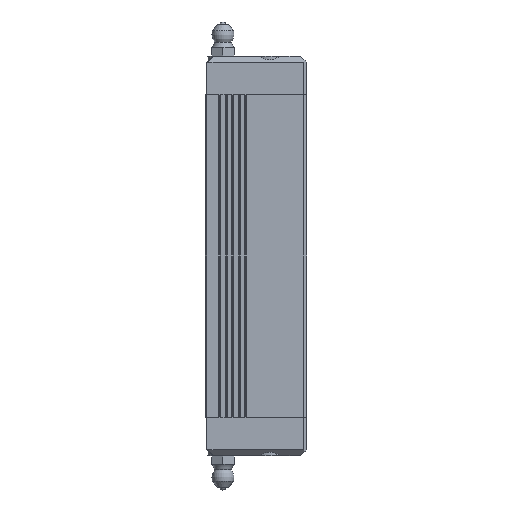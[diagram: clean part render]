
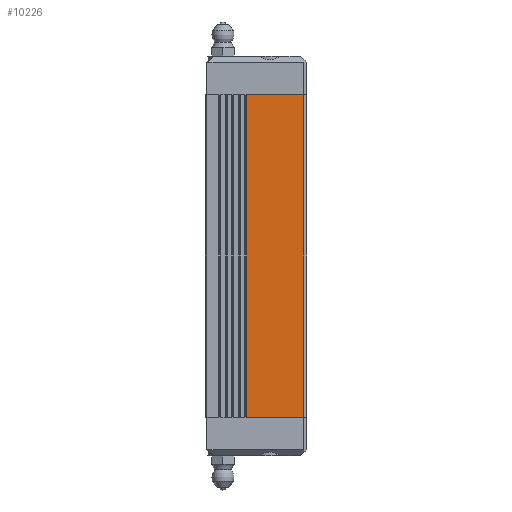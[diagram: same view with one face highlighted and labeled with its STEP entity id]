
A CAD part, left-side view. The second image highlights one B-rep face of the part: STEP entity #10226.
In plain terms, the highlighted planar face has unit normal (-1, 0, 0).
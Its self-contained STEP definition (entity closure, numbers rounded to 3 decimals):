
#169 = PLANE ( 'NONE',  #11054 ) ;
#1442 = DIRECTION ( 'NONE',  ( 0., 0., -1. ) ) ;
#1908 = VECTOR ( 'NONE', #11660, 1000. ) ;
#1925 = LINE ( 'NONE', #5291, #1908 ) ;
#2857 = CARTESIAN_POINT ( 'NONE',  ( -25., 1., 50. ) ) ;
#4682 = FACE_OUTER_BOUND ( 'NONE', #15534, .T. ) ;
#5291 = CARTESIAN_POINT ( 'NONE',  ( -25., 18.7, 50. ) ) ;
#5363 = CARTESIAN_POINT ( 'NONE',  ( -25., 18.7, -50. ) ) ;
#5665 = EDGE_CURVE ( 'NONE', #14354, #13592, #1925, .T. ) ;
#6487 = CARTESIAN_POINT ( 'NONE',  ( -25., 1., -50. ) ) ;
#6518 = CARTESIAN_POINT ( 'NONE',  ( -25., 1., 50. ) ) ;
#6522 = EDGE_CURVE ( 'NONE', #14354, #14292, #15417, .T. ) ;
#6696 = DIRECTION ( 'NONE',  ( 0., -1., 0. ) ) ;
#7379 = VECTOR ( 'NONE', #8855, 1000. ) ;
#7408 = LINE ( 'NONE', #13686, #7379 ) ;
#8220 = EDGE_CURVE ( 'NONE', #14292, #13531, #9811, .T. ) ;
#8855 = DIRECTION ( 'NONE',  ( 0., -1., 0. ) ) ;
#9050 = DIRECTION ( 'NONE',  ( 1., 0., 0. ) ) ;
#9056 = EDGE_CURVE ( 'NONE', #13592, #13531, #7408, .T. ) ;
#9108 = CARTESIAN_POINT ( 'NONE',  ( -25., 1., 50. ) ) ;
#9342 = CARTESIAN_POINT ( 'NONE',  ( -25., 18.7, 50. ) ) ;
#9677 = ORIENTED_EDGE ( 'NONE', *, *, #8220, .F. ) ;
#9684 = VECTOR ( 'NONE', #14930, 1000. ) ;
#9811 = LINE ( 'NONE', #9108, #9684 ) ;
#10226 = ADVANCED_FACE ( 'NONE', ( #4682 ), #169, .F. ) ;
#11007 = ORIENTED_EDGE ( 'NONE', *, *, #6522, .F. ) ;
#11054 = AXIS2_PLACEMENT_3D ( 'NONE', #6518, #9050, #1442 ) ;
#11660 = DIRECTION ( 'NONE',  ( 0., 0., -1. ) ) ;
#12004 = ORIENTED_EDGE ( 'NONE', *, *, #9056, .T. ) ;
#12083 = ORIENTED_EDGE ( 'NONE', *, *, #5665, .T. ) ;
#13531 = VERTEX_POINT ( 'NONE', #6487 ) ;
#13592 = VERTEX_POINT ( 'NONE', #5363 ) ;
#13686 = CARTESIAN_POINT ( 'NONE',  ( -25., 31., -50. ) ) ;
#13911 = CARTESIAN_POINT ( 'NONE',  ( -25., 1., 50. ) ) ;
#14292 = VERTEX_POINT ( 'NONE', #13911 ) ;
#14354 = VERTEX_POINT ( 'NONE', #9342 ) ;
#14930 = DIRECTION ( 'NONE',  ( 0., 0., -1. ) ) ;
#15417 = LINE ( 'NONE', #2857, #15446 ) ;
#15446 = VECTOR ( 'NONE', #6696, 1000. ) ;
#15534 = EDGE_LOOP ( 'NONE', ( #12004, #9677, #11007, #12083 ) ) ;
